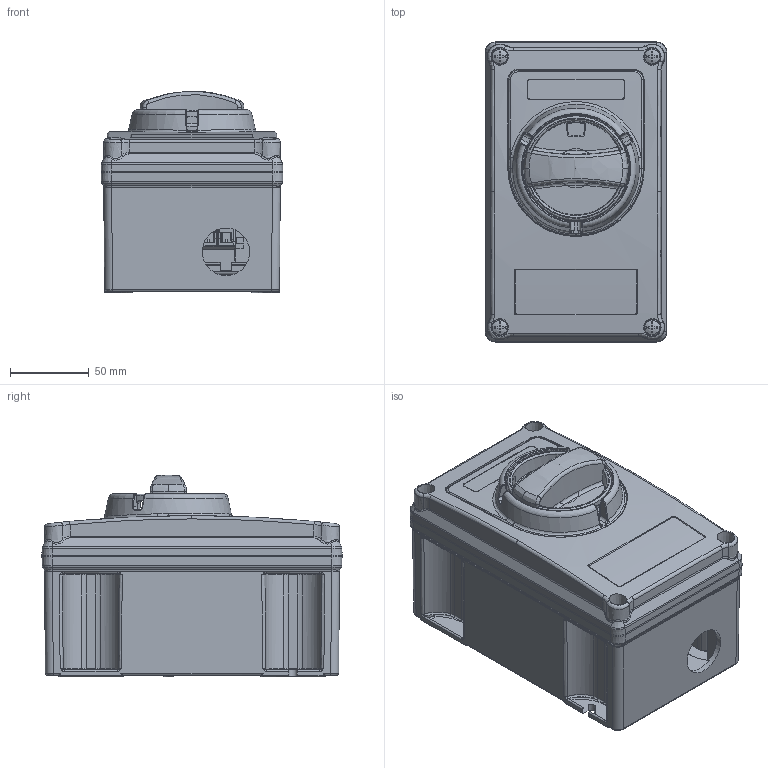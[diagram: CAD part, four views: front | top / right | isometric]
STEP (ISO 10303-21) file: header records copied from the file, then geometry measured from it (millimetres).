
FILE_DESCRIPTION(/* description */ (''),/* implementation_level */ '2;1');
FILE_NAME(/* name */ '4002632.stp',/* time_stamp */ '2016-09-22T12:21:07+02:00',/* author */ (''),/* organization */ (''),/* preprocessor_version */ 'ST-DEVELOPER v16',/* originating_system */ 'SIEMENS PLM Software NX 11.0',/* authorisation */ '');
FILE_SCHEMA (('AUTOMOTIVE_DESIGN { 1 0 10303 214 3 1 1 1 }'));
Products named in the file (1): 4002632_LINKEDEXT_jt
Bounding box: 115 x 190 x 127.7 mm (x, y, z)
Surface area: 143050.4 mm2 (no closed solid volume)
Topology: 0 solids, 48 shells, 617 faces, 2089 edges, 1437 vertices
Faces by surface type: bspline 264, cylinder 159, plane 137, cone 39, torus 10, sphere 8
Full cylindrical faces by diameter (mm): 5 x2, 30.1 x1
Entity records: 47540 total; most frequent: CARTESIAN_POINT 28268, ORIENTED_EDGE 3128, DIRECTION 2141, EDGE_CURVE 2041, VERTEX_POINT 1429, B_SPLINE_CURVE_WITH_KNOTS 986, AXIS2_PLACEMENT_3D 732, LINE 677
